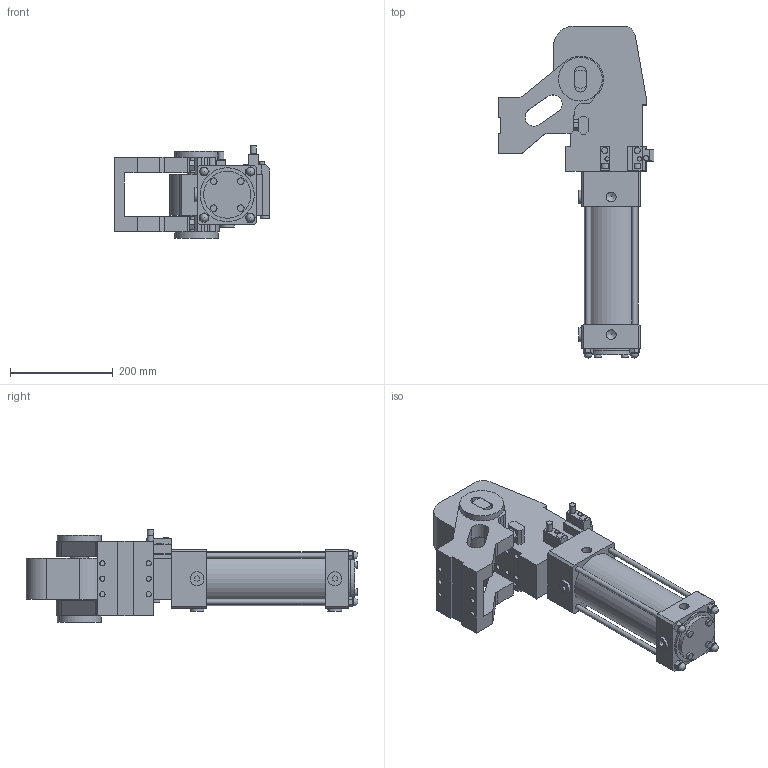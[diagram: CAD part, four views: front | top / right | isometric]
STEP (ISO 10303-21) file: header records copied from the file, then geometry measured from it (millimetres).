
FILE_DESCRIPTION(/* description */ (''),/* implementation_level */ '2;1');
FILE_NAME(/* name */ 'S:\Tom\INVENTOR FILES\AUTOMOTIVE\VEP\DUMP UNITS\C05.P015 RFM.2-RF.2\C05.P015 RFM.2-RF.2\RFM100\SATs\XPUZ100.2-121-1-ESL-P-G-X.stp',/* time_stamp */ '2018-07-29T17:20:50+01:00',/* author */ ('carl'),/* organization */ (''),/* preprocessor_version */ 'ST-DEVELOPER v16.13',/* originating_system */ 'Autodesk Inventor 2018',/* authorisation */ '');
FILE_SCHEMA (('AUTOMOTIVE_DESIGN { 1 0 10303 214 3 1 1 }'));
Length unit declared in the file: millimetre
Products named in the file (11): XPUZ100.2-121-1-ESL-P-G-X_TOP; XPUZ100; XPUZ100_1; XPUZ100_2; XPUZ100_3; XPUZ100_4; XPUZ100_5; XPUZ100_6; XPUZ100_7; XPUZ100_8; XPUZ100_9
Assembly tree (10 placements, depth 2):
  XPUZ100.2-121-1-ESL-P-G-X_TOP
    XPUZ100
    XPUZ100_1
    XPUZ100_2
    XPUZ100_3
    XPUZ100_4
    XPUZ100_5
    XPUZ100_6
    XPUZ100_7
    XPUZ100_8
    XPUZ100_9
Bounding box: 303 x 645.5 x 179.5 mm (x, y, z)
Volume: 8682713.6 mm3; surface area: 590678 mm2
Topology: 10 solids, 10 shells, 379 faces, 915 edges, 604 vertices
Faces by surface type: plane 256, cylinder 101, cone 18, sphere 4
Full cylindrical faces by diameter (mm): 5.5 x2, 8.5 x2, 10 x13, 10.2 x13, 11.8 x2, 12 x2, 13 x5, 16 x4, 18 x1, 19 x6, 20.6 x4, 27 x4, 35 x1, 44 x2, 45.5 x1, 85 x2, 91.5 x1, 105 x2
Entity records: 10771 total; most frequent: DIRECTION 1802, CARTESIAN_POINT 1778, ORIENTED_EDGE 1600, EDGE_CURVE 800, AXIS2_PLACEMENT_3D 602, LINE 598, VECTOR 598, VERTEX_POINT 578
